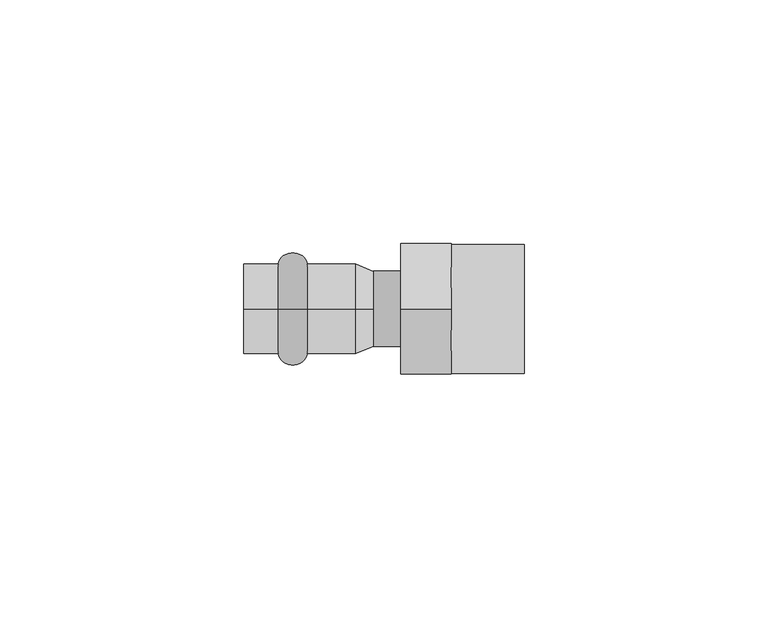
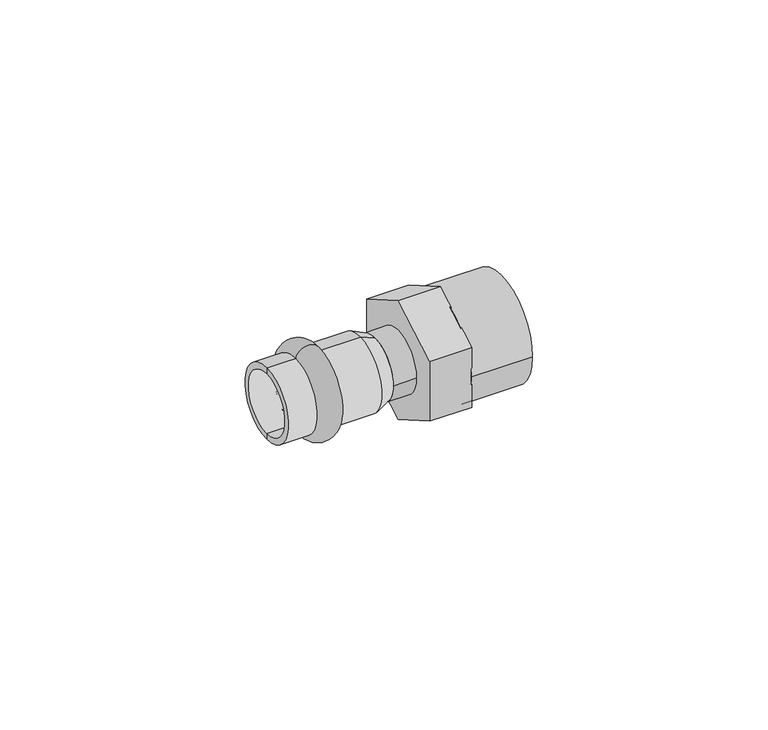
"""IFC4 building model written with IfcOpenShell, lengths in millimetres: pipe fitting geometry."""

from ifc_helpers import new_model, si_unit, point, frame, origin, origin_2d, place, context, project, spatial, polyline, circle_curve, ellipse_curve, trimmed, segment, composite_curve, outline, extrude, source, transform, mapped, element, save
from ifc_brep_helpers import plane_surface, cylinder_surface, revolved_surface, advanced_brep


def pipe_fitting_438a40b4(model_context):
    return source(origin(), model_context, "Body", "SolidModel", [
        advanced_brep(
        [(-15.9, 0.0, 9.25), (-15.9, 0.0, -9.25), (-10.0, 0.0, -9.25), (-10.0, 0.0, 9.25)],
        [
            (0, 1, circle_curve(frame((-15.9, 0.0, 0.0), z_axis=(-1.0, 0.0, 0.0), x_axis=(0.0, 0.0, -1.0)), 9.25)),
            (1, 2),
            (2, 3, circle_curve(frame((-10.0, 0.0, 0.0), z_axis=(1.0, 0.0, 0.0), x_axis=(0.0, 0.0, -1.0)), 9.25)),
            (3, 0),
            (1, 0, circle_curve(frame((-15.9, 0.0, 0.0), z_axis=(-1.0, 0.0, 0.0), x_axis=(0.0, 0.0, -1.0)), 9.25)),
            (3, 2, circle_curve(frame((-10.0, 0.0, 0.0), z_axis=(1.0, 0.0, 0.0), x_axis=(0.0, 0.0, -1.0)), 9.25)),
            (2, 1, ellipse_curve(frame((-12.95, 0.0, -9.25), z_axis=(0.0, 1.0, 0.0), x_axis=(-1.0, 0.0, 0.0)), 2.95, 2.3)),
            (0, 3, ellipse_curve(frame((-12.95, 0.0, 9.25), z_axis=(0.0, 1.0, 0.0), x_axis=(-1.0, 0.0, 0.0)), 2.95, 2.3)),
        ],
        [
            revolved_surface(polyline([(-10.0, 0.0, -9.25), (-15.899999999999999, 0.0, -9.25)]), (3.0, 0.0, 0.0), (1.0, 0.0, 0.0)),
            revolved_surface(trimmed(ellipse_curve(frame((-12.95, 0.0, -9.25), z_axis=(0.0, -1.0, 0.0), x_axis=(-1.0, 0.0, 0.0)), 2.95, 2.3), [point((-15.9, 0.0, -9.25))], [point((-10.0, 0.0, -9.25))], True, "CARTESIAN"), (3.0, 0.0, 0.0), (1.0, 0.0, 0.0)),
        ],
        [
            (0, [[1, 2, 3, 4]]),
            (0, [[5, -4, 6, -2]]),
            (1, [[-3, 7, -1, 8]]),
            (1, [[-6, -8, -5, -7]]),
        ],
    ),
        advanced_brep(
        [(3.5337785, 0.0, 7.75), (3.5337785, 0.0, -7.75), (0.0, 0.0, -9.25), (0.0, 0.0, 9.25), (-23.0, 0.0, 7.75), (-23.0, 0.0, -7.75), (-23.0, 0.0, 9.25), (-23.0, 0.0, -9.25)],
        [
            (0, 1, circle_curve(frame((3.5337785, 0.0, 0.0), z_axis=(-1.0, 0.0, 0.0), x_axis=(0.0, 0.0, -1.0)), 7.75)),
            (1, 2),
            (2, 3, circle_curve(frame((0.0, 0.0, 0.0), z_axis=(1.0, 0.0, 0.0), x_axis=(0.0, 0.0, -1.0)), 9.25)),
            (3, 0),
            (1, 0, circle_curve(frame((3.5337785, 0.0, 0.0), z_axis=(-1.0, 0.0, 0.0), x_axis=(0.0, 0.0, -1.0)), 7.75)),
            (3, 2, circle_curve(frame((0.0, 0.0, 0.0), z_axis=(1.0, 0.0, 0.0), x_axis=(0.0, 0.0, -1.0)), 9.25)),
            (4, 5, circle_curve(frame((-23.0, 0.0, 0.0), z_axis=(-1.0, 0.0, 0.0), x_axis=(0.0, 0.0, -1.0)), 7.75)),
            (5, 1),
            (0, 4),
            (5, 4, circle_curve(frame((-23.0, 0.0, 0.0), z_axis=(-1.0, 0.0, 0.0), x_axis=(0.0, 0.0, -1.0)), 7.75)),
            (6, 7, circle_curve(frame((-23.0, 0.0, 0.0), z_axis=(-1.0, 0.0, 0.0), x_axis=(0.0, 0.0, -1.0)), 9.25)),
            (7, 5),
            (4, 6),
            (7, 6, circle_curve(frame((-23.0, 0.0, 0.0), z_axis=(-1.0, 0.0, 0.0), x_axis=(0.0, 0.0, -1.0)), 9.25)),
            (2, 7),
            (6, 3),
        ],
        [
            revolved_surface(polyline([(0.0, 0.0, -9.25), (3.5337785, 0.0, -7.75)]), (3.0, 0.0, 0.0), (1.0, 0.0, 0.0)),
            revolved_surface(polyline([(3.5337785, 0.0, -7.75), (-23.0, 0.0, -7.75)]), (3.0, 0.0, 0.0), (1.0, 0.0, 0.0)),
            plane_surface(frame((-23.0, 0.0, 0.0), z_axis=(-1.0, 0.0, 0.0), x_axis=(0.0, 0.0, -1.0))),
            cylinder_surface(frame((3.0, 0.0, 0.0), z_axis=(1.0, 0.0, 0.0), x_axis=(0.0, 0.0, -1.0)), 9.25),
        ],
        [
            (0, [[1, 2, 3, 4]]),
            (0, [[5, -4, 6, -2]]),
            (1, [[7, 8, -1, 9]]),
            (1, [[10, -9, -5, -8]]),
            (2, [[11, 12, -7, 13]]),
            (2, [[14, -13, -10, -12]]),
            (3, [[-3, 15, -11, 16]]),
            (3, [[-6, -16, -14, -15]]),
        ],
    ),
        extrude(outline(composite_curve([segment(trimmed(circle_curve(origin_2d(), 13.25), [point((-13.25, 0.0))], [point((13.25, 0.0))], False, "CARTESIAN"), True, "CONTINUOUS"), segment(trimmed(circle_curve(origin_2d(), 13.25), [point((13.25, 0.0))], [point((-13.25, 0.0))], False, "CARTESIAN"), True, "CONTINUOUS")], self_intersect=False)), frame((19.5337785, 0.0, 0.0), z_axis=(1.0, 0.0, 0.0), x_axis=(0.0, 1.0, 0.0)), (0.0, 0.0, 1.0), 15.0),
        extrude(outline(composite_curve([segment(trimmed(circle_curve(origin_2d(), 7.75), [point((-7.75, 0.0))], [point((7.75, 0.0))], False, "CARTESIAN"), True, "CONTINUOUS"), segment(trimmed(circle_curve(origin_2d(), 7.75), [point((7.75, 0.0))], [point((-7.75, 0.0))], False, "CARTESIAN"), True, "CONTINUOUS")], self_intersect=False)), frame((3.5337785, 0.0, 0.0), z_axis=(1.0, 0.0, 0.0), x_axis=(0.0, 1.0, 0.0)), (0.0, 0.0, 1.0), 5.7),
        extrude(outline(polyline([(-13.4, 7.7364936), (0.0, 15.4729872), (13.4, 7.7364936), (13.4, -7.7364936), (0.0, -15.4729872), (-13.4, -7.7364936), (-13.4, 7.7364936)]), holes=[polyline([(0.0, -3.1754265), (2.75, -1.5877132), (2.75, 1.5877132), (0.0, 3.1754265), (-2.75, 1.5877132), (-2.75, -1.5877132), (0.0, -3.1754265)])]), frame((9.2337785, 0.0, 0.0), z_axis=(1.0, 0.0, 0.0), x_axis=(0.0, 1.0, 0.0)), (0.0, 0.0, 1.0), 10.3),
    ])


if __name__ == "__main__":
    model = new_model("IFC4")
    model_context = context("Model", 3, world=origin())
    ifc_project = project(units=[si_unit("LENGTHUNIT", "METRE", prefix="MILLI")], contexts=[model_context])
    site = spatial("IfcSite", under=ifc_project)
    building = spatial("IfcBuilding", under=site)
    placement = place(None, origin())
    pipe_fitting_shape = pipe_fitting_438a40b4(model_context)
    element("IfcPipeFitting", 1, ObjectType="РЕХАУ_Пресс Муфта НР : 15 x R 3/4\"", at=placement, inside=building, context=model_context, shape_type="MappedRepresentation", body=[
        mapped(pipe_fitting_shape, transform((0.0, 0.0, 0.0), x_axis=(1.0, 0.0, 0.0), y_axis=(0.0, 1.0, 0.0), z_axis=(0.0, 0.0, 1.0))),
    ])
    save(model, "model.ifc")
